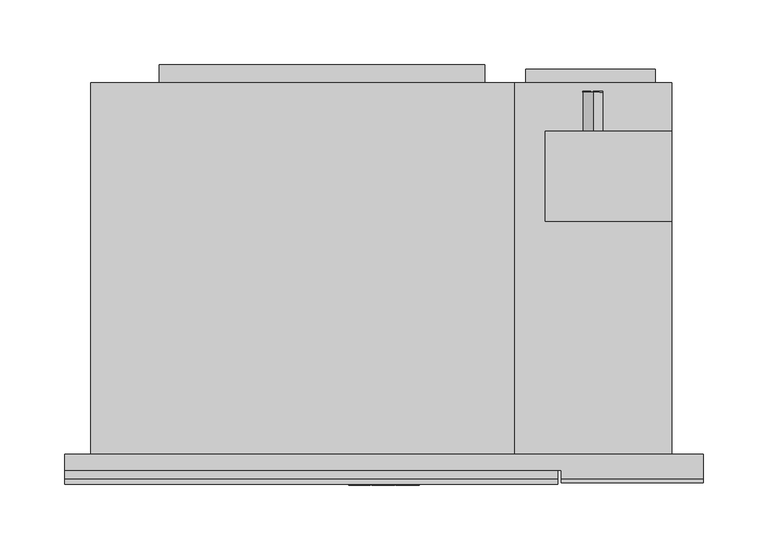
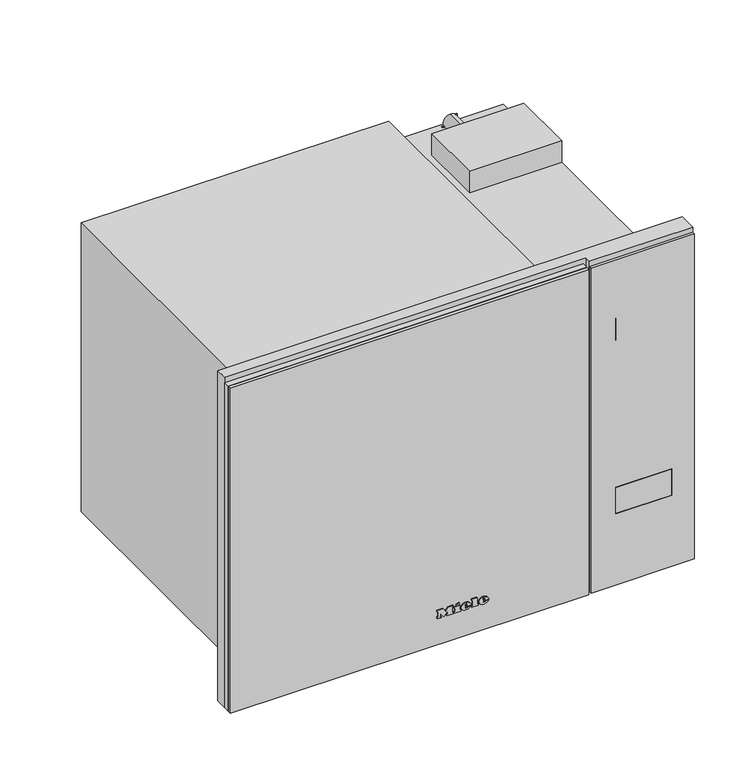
"""IFC4 building model written with IfcOpenShell, lengths in millimetres: proxy geometry, 11100520_NER_M2224SC_OBSW : 24222420_NER_11100520_M2224SC_OBSW."""

from ifc_helpers import new_model, si_unit, point, frame, frame_2d, origin, origin_with_axes, place, context, project, spatial, polyline, circle_curve, ellipse_curve, trimmed, segment, composite_curve, outline, extrude, faceted_brep, source, transform, mapped, element, save
from ifc_brep_helpers import plane_surface, cylinder_surface, revolved_surface, extruded_surface, advanced_brep


def specialty_equipment_d0073193(model_context):
    return source(origin(), model_context, "Body", "SolidModel", [
        advanced_brep(
        [(21.28, -24.0, 16.633), (21.28, -24.0, 17.542), (27.301, -24.0, 17.542), (16.825, -24.0, 17.542), (19.3, -24.0, 14.5), (27.148, -24.0, 16.633), (24.43, -24.0, 16.633), (22.288, -24.0, 15.625), (21.28, -24.0, 18.694), (21.28, -24.0, 19.675), (22.819, -24.0, 19.675), (22.819, -24.0, 18.694), (21.28, -23.0, 16.633), (22.288, -23.0, 15.625), (24.43, -23.0, 16.633), (27.148, -23.0, 16.633), (19.3, -23.0, 14.5), (16.825, -23.0, 17.542), (27.301, -23.0, 17.542), (21.28, -23.0, 17.542), (21.28, -23.0, 18.694), (22.819, -23.0, 18.694), (22.819, -23.0, 19.675), (21.28, -23.0, 19.675)],
        [
            (0, 1),
            (1, 2),
            (2, 3, ellipse_curve(frame((22.063, -24.0, 17.542), z_axis=(0.0, -1.0, 0.0), x_axis=(-1.0, 0.0, 0.0)), 5.238, 4.329)),
            (3, 4, circle_curve(frame((20.3080491, -24.0, 17.848), z_axis=(0.0, -1.0, 0.0), x_axis=(0.0, 0.0, -1.0)), 3.4964649)),
            (4, 5, circle_curve(frame((21.9581428, -24.0, 20.224), z_axis=(0.0, -1.0, 0.0), x_axis=(0.0, 0.0, -1.0)), 6.3110933)),
            (5, 6),
            (6, 7, circle_curve(frame((22.7279412, -24.0, 17.47), z_axis=(0.0, 1.0, 0.0), x_axis=(0.0, 0.0, -1.0)), 1.896727)),
            (7, 0, circle_curve(frame((22.288, -24.0, 16.633), z_axis=(0.0, 1.0, 0.0), x_axis=(0.0, 0.0, -1.0)), 1.008)),
            (8, 9),
            (9, 10, circle_curve(frame((22.0495, -24.0, 19.675), z_axis=(0.0, 1.0, 0.0), x_axis=(0.0, 0.0, -1.0)), 0.7695)),
            (10, 11),
            (11, 8),
            (12, 13, circle_curve(frame((22.288, -23.0, 16.633), z_axis=(0.0, -1.0, 0.0), x_axis=(0.0, 0.0, -1.0)), 1.008)),
            (13, 14, circle_curve(frame((22.7279412, -23.0, 17.47), z_axis=(0.0, -1.0, 0.0), x_axis=(0.0, 0.0, -1.0)), 1.896727)),
            (14, 15),
            (15, 16, circle_curve(frame((21.9581428, -23.0, 20.224), z_axis=(0.0, 1.0, 0.0), x_axis=(0.0, 0.0, -1.0)), 6.3110933)),
            (16, 17, circle_curve(frame((20.3080491, -23.0, 17.848), z_axis=(0.0, 1.0, 0.0), x_axis=(0.0, 0.0, -1.0)), 3.4964649)),
            (17, 18, ellipse_curve(frame((22.063, -23.0, 17.542), z_axis=(0.0, 1.0, 0.0), x_axis=(-1.0, 0.0, 0.0)), 5.238, 4.329)),
            (18, 19),
            (19, 12),
            (20, 21),
            (21, 22),
            (22, 23, circle_curve(frame((22.0495, -23.0, 19.675), z_axis=(0.0, -1.0, 0.0), x_axis=(0.0, 0.0, -1.0)), 0.7695)),
            (23, 20),
            (0, 12),
            (19, 1),
            (18, 2),
            (5, 15),
            (14, 6),
            (17, 3),
            (13, 7),
            (16, 4),
            (8, 20),
            (23, 9),
            (22, 10),
            (21, 11),
        ],
        [
            plane_surface(frame((21.28, -24.0, 17.542), z_axis=(0.0, -1.0, 0.0), x_axis=(0.0, 0.0, 1.0))),
            plane_surface(frame((21.28, -23.0, 17.542), z_axis=(0.0, 1.0, 0.0), x_axis=(0.0, 0.0, -1.0))),
            plane_surface(frame((21.28, -24.0, 16.633), z_axis=(1.0, 0.0, 0.0), x_axis=(0.0, 1.0, 0.0))),
            plane_surface(frame((21.28, -24.0, 17.542), z_axis=(0.0, 0.0, -1.0), x_axis=(0.0, 1.0, 0.0))),
            plane_surface(frame((27.148, -24.0, 16.633), z_axis=(0.0, 0.0, 1.0), x_axis=(0.0, 1.0, 0.0))),
            extruded_surface(trimmed(ellipse_curve(frame((22.063, -22.0, 17.542), z_axis=(0.0, -1.0, 0.0), x_axis=(-1.0, 0.0, 0.0)), 5.238, 4.329), [point((27.301, -22.0, 17.542))], [point((16.825, -22.0, 17.542))], True, "CARTESIAN"), (0.0, -1.0, 0.0), 1.0),
            revolved_surface(polyline([(22.7279412, -23.0, 15.573272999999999), (22.7279412, -24.0, 15.573272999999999)]), (22.7279412, -23.0, 17.47), (0.0, 1.0, 0.0)),
            revolved_surface(polyline([(22.288, -23.0, 15.625), (22.288, -24.0, 15.625)]), (22.288, -23.0, 16.633), (0.0, 1.0, 0.0)),
            cylinder_surface(frame((20.3080491, -23.0, 17.848), z_axis=(0.0, -1.0, 0.0), x_axis=(0.0, 0.0, -1.0)), 3.4964649),
            cylinder_surface(frame((21.9581428, -23.0, 20.224), z_axis=(0.0, -1.0, 0.0), x_axis=(0.0, 0.0, -1.0)), 6.3110933),
            plane_surface(frame((21.28, -24.0, 18.694), z_axis=(1.0, 0.0, 0.0), x_axis=(0.0, 1.0, 0.0))),
            revolved_surface(polyline([(22.0495, -23.0, 18.9055), (22.0495, -24.0, 18.9055)]), (22.0495, -23.0, 19.675), (0.0, 1.0, 0.0)),
            plane_surface(frame((22.819, -24.0, 19.675), z_axis=(-1.0, 0.0, 0.0), x_axis=(0.0, 1.0, 0.0))),
            plane_surface(frame((22.819, -24.0, 18.694), z_axis=(0.0, 0.0, 1.0), x_axis=(0.0, 1.0, 0.0))),
        ],
        [
            (0, [[1, 2, 3, 4, 5, 6, 7, 8], [9, 10, 11, 12]]),
            (1, [[13, 14, 15, 16, 17, 18, 19, 20], [21, 22, 23, 24]]),
            (2, [[-1, 25, -20, 26]]),
            (3, [[-2, -26, -19, 27]]),
            (4, [[-6, 28, -15, 29]]),
            (5, [[-3, -27, -18, 30]]),
            (6, [[-7, -29, -14, 31]]),
            (7, [[-8, -31, -13, -25]]),
            (8, [[-4, -30, -17, 32]]),
            (9, [[-5, -32, -16, -28]]),
            (10, [[-9, 33, -24, 34]]),
            (11, [[-10, -34, -23, 35]]),
            (12, [[-11, -35, -22, 36]]),
            (13, [[-12, -36, -21, -33]]),
        ],
    ),
        advanced_brep(
        [(2.497, -24.0, 16.633), (2.497, -24.0, 17.542), (8.518, -24.0, 17.542), (-1.958, -24.0, 17.542), (0.517, -24.0, 14.5), (8.365, -24.0, 16.633), (5.647, -24.0, 16.633), (3.505, -24.0, 15.625), (2.497, -24.0, 18.694), (2.497, -24.0, 19.675), (4.036, -24.0, 19.675), (4.036, -24.0, 18.694), (2.497, -23.0, 16.633), (3.505, -23.0, 15.625), (5.647, -23.0, 16.633), (8.365, -23.0, 16.633), (0.517, -23.0, 14.5), (-1.958, -23.0, 17.542), (8.518, -23.0, 17.542), (2.497, -23.0, 17.542), (2.497, -23.0, 18.694), (4.036, -23.0, 18.694), (4.036, -23.0, 19.675), (2.497, -23.0, 19.675)],
        [
            (0, 1),
            (1, 2),
            (2, 3, ellipse_curve(frame((3.28, -24.0, 17.542), z_axis=(0.0, -1.0, 0.0), x_axis=(-1.0, 0.0, 0.0)), 5.238, 4.329)),
            (3, 4, circle_curve(frame((1.5250491, -24.0, 17.848), z_axis=(0.0, -1.0, 0.0), x_axis=(0.0, 0.0, -1.0)), 3.4964649)),
            (4, 5, circle_curve(frame((3.1751428, -24.0, 20.224), z_axis=(0.0, -1.0, 0.0), x_axis=(0.0, 0.0, -1.0)), 6.3110933)),
            (5, 6),
            (6, 7, circle_curve(frame((3.9449412, -24.0, 17.47), z_axis=(0.0, 1.0, 0.0), x_axis=(0.0, 0.0, -1.0)), 1.896727)),
            (7, 0, circle_curve(frame((3.505, -24.0, 16.633), z_axis=(0.0, 1.0, 0.0), x_axis=(0.0, 0.0, -1.0)), 1.008)),
            (8, 9),
            (9, 10, circle_curve(frame((3.2665, -24.0, 19.675), z_axis=(0.0, 1.0, 0.0), x_axis=(0.0, 0.0, -1.0)), 0.7695)),
            (10, 11),
            (11, 8),
            (12, 13, circle_curve(frame((3.505, -23.0, 16.633), z_axis=(0.0, -1.0, 0.0), x_axis=(0.0, 0.0, -1.0)), 1.008)),
            (13, 14, circle_curve(frame((3.9449412, -23.0, 17.47), z_axis=(0.0, -1.0, 0.0), x_axis=(0.0, 0.0, -1.0)), 1.896727)),
            (14, 15),
            (15, 16, circle_curve(frame((3.1751428, -23.0, 20.224), z_axis=(0.0, 1.0, 0.0), x_axis=(0.0, 0.0, -1.0)), 6.3110933)),
            (16, 17, circle_curve(frame((1.5250491, -23.0, 17.848), z_axis=(0.0, 1.0, 0.0), x_axis=(0.0, 0.0, -1.0)), 3.4964649)),
            (17, 18, ellipse_curve(frame((3.28, -23.0, 17.542), z_axis=(0.0, 1.0, 0.0), x_axis=(-1.0, 0.0, 0.0)), 5.238, 4.329)),
            (18, 19),
            (19, 12),
            (20, 21),
            (21, 22),
            (22, 23, circle_curve(frame((3.2665, -23.0, 19.675), z_axis=(0.0, -1.0, 0.0), x_axis=(0.0, 0.0, -1.0)), 0.7695)),
            (23, 20),
            (0, 12),
            (19, 1),
            (18, 2),
            (5, 15),
            (14, 6),
            (17, 3),
            (13, 7),
            (16, 4),
            (8, 20),
            (23, 9),
            (22, 10),
            (21, 11),
        ],
        [
            plane_surface(frame((2.497, -24.0, 17.542), z_axis=(0.0, -1.0, 0.0), x_axis=(0.0, 0.0, 1.0))),
            plane_surface(frame((2.497, -23.0, 17.542), z_axis=(0.0, 1.0, 0.0), x_axis=(0.0, 0.0, -1.0))),
            plane_surface(frame((2.497, -24.0, 16.633), z_axis=(1.0, 0.0, 0.0), x_axis=(0.0, 1.0, 0.0))),
            plane_surface(frame((2.497, -24.0, 17.542), z_axis=(0.0, 0.0, -1.0), x_axis=(0.0, 1.0, 0.0))),
            plane_surface(frame((8.365, -24.0, 16.633), z_axis=(0.0, 0.0, 1.0), x_axis=(0.0, 1.0, 0.0))),
            extruded_surface(trimmed(ellipse_curve(frame((3.28, -22.0, 17.542), z_axis=(0.0, -1.0, 0.0), x_axis=(-1.0, 0.0, 0.0)), 5.238, 4.329), [point((8.518, -22.0, 17.542))], [point((-1.958, -22.0, 17.542))], True, "CARTESIAN"), (0.0, -1.0, 0.0), 1.0),
            revolved_surface(polyline([(3.9449412, -23.0, 15.573272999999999), (3.9449412, -24.0, 15.573272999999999)]), (3.9449412, -23.0, 17.47), (0.0, 1.0, 0.0)),
            revolved_surface(polyline([(3.505, -23.0, 15.625), (3.505, -24.0, 15.625)]), (3.505, -23.0, 16.633), (0.0, 1.0, 0.0)),
            cylinder_surface(frame((1.5250491, -23.0, 17.848), z_axis=(0.0, -1.0, 0.0), x_axis=(0.0, 0.0, -1.0)), 3.4964649),
            cylinder_surface(frame((3.1751428, -23.0, 20.224), z_axis=(0.0, -1.0, 0.0), x_axis=(0.0, 0.0, -1.0)), 6.3110933),
            plane_surface(frame((2.497, -24.0, 18.694), z_axis=(1.0, 0.0, 0.0), x_axis=(0.0, 1.0, 0.0))),
            revolved_surface(polyline([(3.2665, -23.0, 18.9055), (3.2665, -24.0, 18.9055)]), (3.2665, -23.0, 19.675), (0.0, 1.0, 0.0)),
            plane_surface(frame((4.036, -24.0, 19.675), z_axis=(-1.0, 0.0, 0.0), x_axis=(0.0, 1.0, 0.0))),
            plane_surface(frame((4.036, -24.0, 18.694), z_axis=(0.0, 0.0, 1.0), x_axis=(0.0, 1.0, 0.0))),
        ],
        [
            (0, [[1, 2, 3, 4, 5, 6, 7, 8], [9, 10, 11, 12]]),
            (1, [[13, 14, 15, 16, 17, 18, 19, 20], [21, 22, 23, 24]]),
            (2, [[-1, 25, -20, 26]]),
            (3, [[-2, -26, -19, 27]]),
            (4, [[-6, 28, -15, 29]]),
            (5, [[-3, -27, -18, 30]]),
            (6, [[-7, -29, -14, 31]]),
            (7, [[-8, -31, -13, -25]]),
            (8, [[-4, -30, -17, 32]]),
            (9, [[-5, -32, -16, -28]]),
            (10, [[-9, 33, -24, 34]]),
            (11, [[-10, -34, -23, 35]]),
            (12, [[-11, -35, -22, 36]]),
            (13, [[-12, -36, -21, -33]]),
        ],
    ),
        extrude(outline(polyline([(22.969, -7.34), (21.511, -6.656), (22.933, -3.605), (24.391, -4.28), (22.969, -7.34)])), frame((0.0, -24.0, 0.0), z_axis=(0.0, 1.0, 0.0), x_axis=(0.0, 0.0, 1.0)), (0.0, 0.0, 1.0), 1.0),
        extrude(outline(polyline([(21.313, -9.563), (19.702, -9.563), (19.702, -8.492), (16.012, -8.492), (16.012, -9.563), (14.5, -9.563), (14.5, -2.462), (16.012, -2.462), (16.012, -3.506), (21.313, -3.506), (21.313, -9.563)])), frame((0.0, -24.0, 0.0), z_axis=(0.0, 1.0, 0.0), x_axis=(0.0, 0.0, 1.0)), (0.0, 0.0, 1.0), 1.0),
        extrude(outline(polyline([(22.033, 9.022), (22.033, 10.102), (16.012, 10.102), (16.012, 9.022), (14.5, 9.022), (14.5, 16.321), (16.012, 16.321), (16.012, 15.214), (23.5, 15.214), (23.5, 9.022), (22.033, 9.022)])), frame((0.0, -24.0, 0.0), z_axis=(0.0, 1.0, 0.0), x_axis=(0.0, 0.0, 1.0)), (0.0, 0.0, 1.0), 1.0),
        extrude(outline(polyline([(22.033, -27.5), (22.033, -26.411), (16.012, -26.411), (16.012, -27.5), (14.5, -27.5), (14.5, -23.54), (16.012, -23.54), (16.012, -24.62), (19.8341247, -24.62), (14.5, -20.597), (19.9402223, -16.556), (16.012, -16.556), (16.012, -17.663), (14.5, -17.663), (14.5, -10.481), (16.012, -10.481), (16.012, -11.624), (22.033, -11.624), (22.033, -10.481), (23.5, -10.481), (23.5, -15.962), (20.125, -18.59), (23.5, -21.227), (23.5, -27.5), (22.033, -27.5)])), frame((0.0, -24.0, 0.0), z_axis=(0.0, 1.0, 0.0), x_axis=(0.0, 0.0, 1.0)), (0.0, 0.0, 1.0), 1.0),
        extrude(outline(polyline([(164.0, -19.0), (223.0, -19.0), (223.0, -22.0), (164.0, -22.0), (164.0, -19.0)])), frame((0.0, 0.0, 65.0), z_axis=(0.0, 0.0, 1.0), x_axis=(1.0, 0.0, 0.0)), (0.0, 0.0, 1.0), 29.0),
        extrude(outline(polyline([(350.5, 247.5), (350.5, 137.5), (-15.5, 137.5), (-15.5, 247.5), (350.5, 247.5)]), holes=[polyline([(94.5, 223.5), (64.5, 223.5), (64.5, 163.5), (94.5, 163.5), (94.5, 223.5)])]), frame((0.0, -22.0, 0.0), z_axis=(0.0, 1.0, 0.0), x_axis=(0.0, 0.0, 1.0)), (0.0, 0.0, 1.0), 3.0),
        extrude(outline(polyline([(163.5, -21.8), (221.5, -21.8), (221.5, -22.1), (163.5, -22.1), (163.5, -21.8)])), frame((0.0, 0.0, 260.0), z_axis=(0.0, 0.0, 1.0), x_axis=(1.0, 0.0, 0.0)), (0.0, 0.0, 1.0), 25.0),
        extrude(outline(polyline([(350.5, -247.5), (-15.5, -247.5), (-15.5, 134.5), (350.5, 134.5), (350.5, -247.5)]), holes=[polyline([(293.5, -215.0), (293.5, 130.0), (41.5, 130.0), (41.5, -215.0), (293.5, -215.0)])]), frame((0.0, -19.0, 0.0), z_axis=(0.0, 1.0, 0.0), x_axis=(0.0, 0.0, 1.0)), (0.0, 0.0, 1.0), 6.5),
        extrude(outline(polyline([(-215.0, 7.0), (130.0, 7.0), (130.0, -19.0), (-215.0, -19.0), (-215.0, 7.0)])), frame((0.0, 0.0, 41.5), z_axis=(0.0, 0.0, 1.0), x_axis=(1.0, 0.0, 0.0)), (0.0, 0.0, 1.0), 252.0),
        extrude(outline(polyline([(-247.5, -19.0), (134.5, -19.0), (134.5, -23.0), (-247.5, -23.0), (-247.5, -19.0)])), frame((0.0, 0.0, -15.5), z_axis=(0.0, 0.0, 1.0), x_axis=(1.0, 0.0, 0.0)), (0.0, 0.0, 1.0), 366.0),
        extrude(outline(polyline([(329.5536781, 162.1660444), (328.2952065, 162.1660444), (328.2952065, 168.1269959), (325.3028248, 168.1269959), (325.3028248, 162.4835385), (324.0487231, 162.4835385), (324.0487231, 168.1269959), (320.7630117, 168.1269959), (320.7630117, 162.0), (319.5, 162.0), (319.5, 169.3757838), (329.5536781, 169.3757838), (329.5536781, 162.1660444)])), frame((0.0, 280.5, 0.0), z_axis=(0.0, 1.0, 0.0), x_axis=(0.0, 0.0, 1.0)), (0.0, 0.0, 1.0), 1.0),
        extrude(outline(polyline([(329.5536781, 158.8530432), (320.7543004, 158.8530432), (320.7543004, 153.8378502), (319.5, 153.8378502), (319.5, 160.1246692), (329.5536781, 160.1246692), (329.5536781, 158.8530432)])), frame((0.0, 280.5, 0.0), z_axis=(0.0, 1.0, 0.0), x_axis=(0.0, 0.0, 1.0)), (0.0, 0.0, 1.0), 1.0),
        extrude(outline(composite_curve([segment(trimmed(circle_curve(frame_2d((324.5, 162.0)), 7.5), [point((317.0, 162.0))], [point((332.0, 162.0))], False, "CARTESIAN"), True, "CONTINUOUS"), segment(trimmed(circle_curve(frame_2d((324.5, 162.0)), 7.5), [point((332.0, 162.0))], [point((317.0, 162.0))], False, "CARTESIAN"), True, "CONTINUOUS")], self_intersect=False)), frame((0.0, 250.5, 0.0), z_axis=(0.0, 1.0, 0.0), x_axis=(0.0, 0.0, 1.0)), (0.0, 0.0, 1.0), 30.0),
        extrude(outline(polyline([(60.0, 176.0), (60.0, 96.0), (-20.0, 96.0), (-20.0, 176.0), (60.0, 176.0)])), frame((0.0, 0.0, 7.0), z_axis=(0.0, 0.0, 1.0), x_axis=(1.0, 0.0, 0.0)), (0.0, 0.0, 1.0), 9.0),
        extrude(outline(polyline([(-164.0, 235.25), (-164.0, 222.75), (-192.0, 222.75), (-192.0, 235.25), (-164.0, 235.25)])), origin_with_axes(), (0.0, 0.0, 1.0), 12.0),
        extrude(outline(polyline([(185.0, 235.25), (185.0, 222.75), (157.0, 222.75), (157.0, 235.25), (185.0, 235.25)])), origin_with_axes(), (0.0, 0.0, 1.0), 12.0),
        extrude(outline(polyline([(185.0, 55.25), (185.0, 42.75), (157.0, 42.75), (157.0, 55.25), (185.0, 55.25)])), origin_with_axes(), (0.0, 0.0, 1.0), 12.0),
        extrude(outline(polyline([(-164.0, 55.25), (-164.0, 42.75), (-192.0, 42.75), (-192.0, 55.25), (-164.0, 55.25)])), origin_with_axes(), (0.0, 0.0, 1.0), 12.0),
        extrude(outline(composite_curve([segment(trimmed(circle_curve(frame_2d((-178.0, 229.0)), 18.5), [point((-159.5, 229.0))], [point((-196.5, 229.0))], False, "CARTESIAN"), True, "CONTINUOUS"), segment(trimmed(circle_curve(frame_2d((-178.0, 229.0)), 18.5), [point((-196.5, 229.0))], [point((-159.5, 229.0))], False, "CARTESIAN"), True, "CONTINUOUS")], self_intersect=False)), frame((0.0, 0.0, 12.0), z_axis=(0.0, 0.0, 1.0), x_axis=(1.0, 0.0, 0.0)), (0.0, 0.0, 1.0), 4.0),
        extrude(outline(composite_curve([segment(trimmed(circle_curve(frame_2d((171.0, 229.0)), 18.5), [point((189.5, 229.0))], [point((152.5, 229.0))], False, "CARTESIAN"), True, "CONTINUOUS"), segment(trimmed(circle_curve(frame_2d((171.0, 229.0)), 18.5), [point((152.5, 229.0))], [point((189.5, 229.0))], False, "CARTESIAN"), True, "CONTINUOUS")], self_intersect=False)), frame((0.0, 0.0, 12.0), z_axis=(0.0, 0.0, 1.0), x_axis=(1.0, 0.0, 0.0)), (0.0, 0.0, 1.0), 4.0),
        extrude(outline(composite_curve([segment(trimmed(circle_curve(frame_2d((-178.0, 49.0)), 18.5), [point((-159.5, 49.0))], [point((-196.5, 49.0))], False, "CARTESIAN"), True, "CONTINUOUS"), segment(trimmed(circle_curve(frame_2d((-178.0, 49.0)), 18.5), [point((-196.5, 49.0))], [point((-159.5, 49.0))], False, "CARTESIAN"), True, "CONTINUOUS")], self_intersect=False)), frame((0.0, 0.0, 12.0), z_axis=(0.0, 0.0, 1.0), x_axis=(1.0, 0.0, 0.0)), (0.0, 0.0, 1.0), 4.0),
        extrude(outline(composite_curve([segment(trimmed(circle_curve(frame_2d((171.0, 49.0)), 18.5), [point((189.5, 49.0))], [point((152.5, 49.0))], False, "CARTESIAN"), True, "CONTINUOUS"), segment(trimmed(circle_curve(frame_2d((171.0, 49.0)), 18.5), [point((152.5, 49.0))], [point((189.5, 49.0))], False, "CARTESIAN"), True, "CONTINUOUS")], self_intersect=False)), frame((0.0, 0.0, 12.0), z_axis=(0.0, 0.0, 1.0), x_axis=(1.0, 0.0, 0.0)), (0.0, 0.0, 1.0), 4.0),
        extrude(outline(polyline([(110.0, 298.5), (210.0, 298.5), (210.0, 288.0), (110.0, 288.0), (110.0, 298.5)])), frame((0.0, 0.0, 52.0), z_axis=(0.0, 0.0, 1.0), x_axis=(1.0, 0.0, 0.0)), (0.0, 0.0, 1.0), 245.0),
        extrude(outline(polyline([(-174.0, 302.0), (78.0, 302.0), (78.0, 288.0), (-174.0, 288.0), (-174.0, 302.0)])), frame((0.0, 0.0, 71.0), z_axis=(0.0, 0.0, 1.0), x_axis=(1.0, 0.0, 0.0)), (0.0, 0.0, 1.0), 183.0),
        extrude(outline(polyline([(125.0, 250.5), (223.0, 250.5), (223.0, 180.5), (125.0, 180.5), (125.0, 250.5)])), frame((0.0, 0.0, 317.0), z_axis=(0.0, 0.0, 1.0), x_axis=(1.0, 0.0, 0.0)), (0.0, 0.0, 1.0), 24.0),
        faceted_brep([(223.0, 288.0, 16.0), (-227.0, 288.0, 16.0), (-227.0, 288.0, 341.0), (101.0, 288.0, 341.0), (101.0, 288.0, 317.0), (223.0, 288.0, 317.0), (-227.0, 0.0, 341.0), (-227.0, 0.0, 16.0), (223.0, 0.0, 16.0), (223.0, 0.0, 317.0), (101.0, 0.0, 317.0), (101.0, 0.0, 341.0), (132.0, 0.0, 307.5), (132.0, 0.0, 31.5), (-221.0, 0.0, 31.5), (-221.0, 0.0, 307.5), (132.0, 2.0, 307.5), (-221.0, 2.0, 307.5), (-221.0, 2.0, 31.5), (132.0, 2.0, 31.5), (94.0, 2.0, 268.5), (94.0, 2.0, 65.5), (-191.0, 2.0, 65.5), (-191.0, 2.0, 268.5), (94.0, 266.0, 268.5), (-191.0, 266.0, 268.5), (-191.0, 266.0, 65.5), (94.0, 266.0, 65.5)], [[[0, 1, 2, 3, 4, 5]], [[6, 7, 8, 9, 10, 11], [12, 13, 14, 15]], [[2, 6, 11, 3]], [[2, 1, 7, 6]], [[1, 0, 8, 7]], [[8, 0, 5, 9]], [[4, 10, 9, 5]], [[10, 4, 3, 11]], [[16, 17, 18, 19], [20, 21, 22, 23]], [[16, 19, 13, 12]], [[19, 18, 14, 13]], [[17, 16, 12, 15]], [[24, 25, 26, 27]], [[24, 27, 21, 20]], [[27, 26, 22, 21]], [[26, 25, 23, 22]], [[25, 24, 20, 23]], [[18, 17, 15, 14]]]),
        faceted_brep([(132.0, 0.0, 307.5), (132.0, 0.0, 31.5), (132.0, -12.5, 31.5), (132.0, -12.5, 307.5), (-221.0, 0.0, 31.5), (-221.0, -12.5, 31.5), (-221.0, 0.0, 307.5), (-221.0, -12.5, 307.5), (247.5, -19.0, -15.5), (247.5, -19.0, 356.5), (137.5, -19.0, 356.5), (137.5, -19.0, -15.5), (247.5, 0.0, 356.5), (247.5, 0.0, -15.5), (-247.5, 0.0, -15.5), (-247.5, 0.0, 356.5), (-247.5, -12.5, 356.5), (137.5, -12.5, 356.5), (-247.5, -12.5, -15.5), (137.5, -12.5, -15.5)], [[[0, 1, 2, 3]], [[1, 4, 5, 2]], [[4, 6, 7, 5]], [[6, 0, 3, 7]], [[8, 9, 10, 11]], [[12, 13, 14, 15], [1, 0, 6, 4]], [[12, 15, 16, 17, 10, 9]], [[15, 14, 18, 16]], [[14, 13, 8, 11, 19, 18]], [[9, 8, 13, 12]], [[19, 17, 16, 18], [3, 2, 5, 7]], [[17, 19, 11, 10]]]),
    ])


if __name__ == "__main__":
    model = new_model("IFC4")
    model_context = context("Model", 3, world=origin())
    ifc_project = project(units=[si_unit("LENGTHUNIT", "METRE", prefix="MILLI")], contexts=[model_context])
    site = spatial("IfcSite", under=ifc_project)
    building = spatial("IfcBuilding", under=site)
    placement = place(None, origin())
    specialty_equipment_shape = specialty_equipment_d0073193(model_context)
    element("IfcBuildingElementProxy", 1, Name="11100520_NER_M2224SC_OBSW : 24222420_NER_11100520_M2224SC_OBSW", ObjectType="11100520_NER_M2224SC_OBSW : 24222420_NER_11100520_M2224SC_OBSW", at=placement, inside=building, context=model_context, shape_type="MappedRepresentation", body=[
        mapped(specialty_equipment_shape, transform((0.0, 0.0, 0.0), x_axis=(1.0, 0.0, 0.0), y_axis=(0.0, 1.0, 0.0), z_axis=(0.0, 0.0, 1.0))),
    ])
    save(model, "model.ifc")
